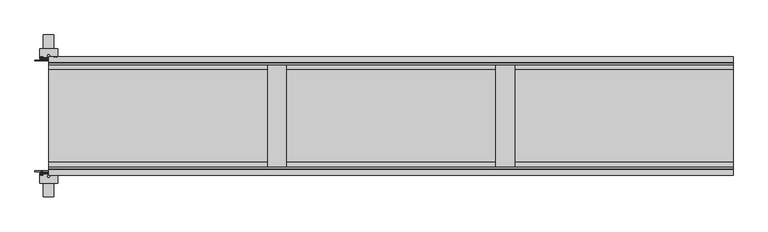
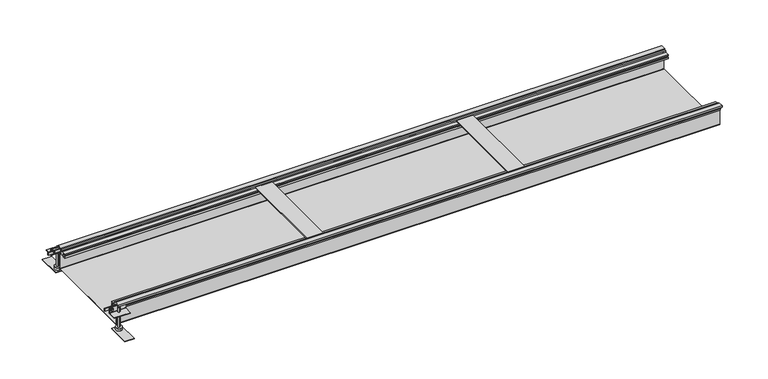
"""IFC4 building model written with IfcOpenShell, lengths in millimetres: proxy geometry, Electrical_Installation_Hager_BKW-Trunking-System-With-Trunking-Bottom-For-Dry-Cleaned-Floors : Nominal Size 400  Length 2.4 m."""

from ifc_helpers import new_model, si_unit, point, frame, frame_2d, origin, place, context, project, spatial, polyline, circle_curve, ellipse_curve, trimmed, segment, composite_curve, outline, extrude, source, transform, mapped, element, save
from ifc_brep_helpers import plane_surface, cylinder_surface, revolved_surface, advanced_brep


def electrical_fixtures_7b31ae11(model_context):
    return source(origin(), model_context, "Body", "SolidModel", [
        advanced_brep(
        [(-19.209696, -206.6418922, 2.5), (-28.790304, -206.6418922, 2.5), (-28.790304, -204.7, 2.5), (-19.209696, -204.7, 2.5), (-26.562969, -204.7, 2.5), (-21.437031, -204.7, 2.5), (-26.562969, -192.7, 2.5), (-21.437031, -192.7, 2.5), (-24.0, -192.7, 2.5), (-24.0, -208.3479209, 2.5)],
        [
            (0, 1, circle_curve(frame((-24.0, -206.6418922, 2.5), z_axis=(0.0, 1.0, 0.0), x_axis=(-1.0, 0.0, 0.0)), 4.790304)),
            (1, 2),
            (2, 3, circle_curve(frame((-24.0, -204.7, 2.5), z_axis=(0.0, -1.0, 0.0), x_axis=(-1.0, 0.0, 0.0)), 4.790304)),
            (3, 0),
            (1, 0, circle_curve(frame((-24.0, -206.6418922, 2.5), z_axis=(0.0, 1.0, 0.0), x_axis=(-1.0, 0.0, 0.0)), 4.790304)),
            (3, 2, circle_curve(frame((-24.0, -204.7, 2.5), z_axis=(0.0, -1.0, 0.0), x_axis=(-1.0, 0.0, 0.0)), 4.790304)),
            (2, 4),
            (4, 5, circle_curve(frame((-24.0, -204.7, 2.5), z_axis=(0.0, -1.0, 0.0), x_axis=(-1.0, 0.0, 0.0)), 2.562969)),
            (5, 3),
            (5, 4, circle_curve(frame((-24.0, -204.7, 2.5), z_axis=(0.0, -1.0, 0.0), x_axis=(-1.0, 0.0, 0.0)), 2.562969)),
            (4, 6),
            (6, 7, circle_curve(frame((-24.0, -192.7, 2.5), z_axis=(0.0, -1.0, 0.0), x_axis=(-1.0, 0.0, 0.0)), 2.562969)),
            (7, 5),
            (7, 6, circle_curve(frame((-24.0, -192.7, 2.5), z_axis=(0.0, -1.0, 0.0), x_axis=(-1.0, 0.0, 0.0)), 2.562969)),
            (6, 8),
            (8, 7),
            (9, 1, circle_curve(frame((-24.0319066, -200.8592246, 2.5), z_axis=(0.0, 0.0, -1.0), x_axis=(-1.0, 0.0, 0.0)), 7.4887643)),
            (0, 9, circle_curve(frame((-23.9680934, -200.8592246, 2.5), z_axis=(0.0, 0.0, -1.0), x_axis=(1.0, 0.0, 0.0)), 7.4887643)),
        ],
        [
            cylinder_surface(frame((-24.0, -204.2950786, 2.5), z_axis=(0.0, -1.0, 0.0), x_axis=(-1.0, 0.0, 0.0)), 4.790304),
            plane_surface(frame((-24.0, -204.7, 2.5), z_axis=(0.0, 1.0, 0.0), x_axis=(-1.0, 0.0, 0.0))),
            cylinder_surface(frame((-24.0, -204.2950786, 2.5), z_axis=(0.0, -1.0, 0.0), x_axis=(-1.0, 0.0, 0.0)), 2.562969),
            plane_surface(frame((-24.0, -192.7, 2.5), z_axis=(0.0, 1.0, 0.0), x_axis=(-1.0, 0.0, 0.0))),
            revolved_surface(trimmed(ellipse_curve(frame((-24.0319066, -200.8592246, 2.5), z_axis=(0.0, 0.0, 1.0), x_axis=(-1.0, 0.0, 0.0)), 7.4887643, 7.4887643), [point((-28.790304, -206.6418922, 2.5))], [point((-24.0, -208.3479209, 2.5))], True, "CARTESIAN"), (-24.0, -204.2950786, 2.5), (0.0, -1.0, 0.0)),
        ],
        [
            (0, [[1, 2, 3, 4]]),
            (0, [[5, -4, 6, -2]]),
            (1, [[-3, 7, 8, 9]]),
            (1, [[-6, -9, 10, -7]]),
            (2, [[-8, 11, 12, 13]]),
            (2, [[-10, -13, 14, -11]]),
            (3, [[-12, 15, 16]]),
            (3, [[-14, -16, -15]]),
            (4, [[17, -1, 18]]),
            (4, [[-18, -5, -17]]),
        ],
    ),
        advanced_brep(
        [(29.0575247, 204.7, 2.5), (19.4769168, 204.7, 2.5), (19.4769168, 206.6418922, 2.5), (29.0575247, 206.6418922, 2.5), (26.8301898, 204.7, 2.5), (21.7042517, 204.7, 2.5), (26.8301898, 192.7, 2.5), (21.7042517, 192.7, 2.5), (24.2672208, 192.7, 2.5), (24.2672208, 208.3479209, 2.5)],
        [
            (0, 1, circle_curve(frame((24.2672208, 204.7, 2.5), z_axis=(0.0, 1.0, 0.0), x_axis=(-1.0, 0.0, 0.0)), 4.790304)),
            (1, 2),
            (2, 3, circle_curve(frame((24.2672208, 206.6418922, 2.5), z_axis=(0.0, -1.0, 0.0), x_axis=(-1.0, 0.0, 0.0)), 4.790304)),
            (3, 0),
            (1, 0, circle_curve(frame((24.2672208, 204.7, 2.5), z_axis=(0.0, 1.0, 0.0), x_axis=(-1.0, 0.0, 0.0)), 4.790304)),
            (3, 2, circle_curve(frame((24.2672208, 206.6418922, 2.5), z_axis=(0.0, -1.0, 0.0), x_axis=(-1.0, 0.0, 0.0)), 4.790304)),
            (4, 5, circle_curve(frame((24.2672208, 204.7, 2.5), z_axis=(0.0, 1.0, 0.0), x_axis=(-1.0, 0.0, 0.0)), 2.562969)),
            (5, 1),
            (0, 4),
            (5, 4, circle_curve(frame((24.2672208, 204.7, 2.5), z_axis=(0.0, 1.0, 0.0), x_axis=(-1.0, 0.0, 0.0)), 2.562969)),
            (6, 7, circle_curve(frame((24.2672208, 192.7, 2.5), z_axis=(0.0, 1.0, 0.0), x_axis=(-1.0, 0.0, 0.0)), 2.562969)),
            (7, 5),
            (4, 6),
            (7, 6, circle_curve(frame((24.2672208, 192.7, 2.5), z_axis=(0.0, 1.0, 0.0), x_axis=(-1.0, 0.0, 0.0)), 2.562969)),
            (8, 7),
            (6, 8),
            (2, 9, circle_curve(frame((24.2353142, 200.8592246, 2.5), z_axis=(0.0, 0.0, -1.0), x_axis=(-1.0, 0.0, 0.0)), 7.4887643)),
            (9, 3, circle_curve(frame((24.2991274, 200.8592246, 2.5), z_axis=(0.0, 0.0, -1.0), x_axis=(1.0, 0.0, 0.0)), 7.4887643)),
        ],
        [
            cylinder_surface(frame((24.2672208, 204.2950786, 2.5), z_axis=(0.0, -1.0, 0.0), x_axis=(-1.0, 0.0, 0.0)), 4.790304),
            plane_surface(frame((24.2672208, 204.7, 2.5), z_axis=(0.0, -1.0, 0.0), x_axis=(-1.0, 0.0, 0.0))),
            cylinder_surface(frame((24.2672208, 204.2950786, 2.5), z_axis=(0.0, -1.0, 0.0), x_axis=(-1.0, 0.0, 0.0)), 2.562969),
            plane_surface(frame((24.2672208, 192.7, 2.5), z_axis=(0.0, -1.0, 0.0), x_axis=(-1.0, 0.0, 0.0))),
            revolved_surface(trimmed(ellipse_curve(frame((24.2353142, 200.8592246, 2.5), z_axis=(0.0, 0.0, 1.0), x_axis=(-1.0, 0.0, 0.0)), 7.4887643, 7.4887643), [point((24.2672208, 208.3479209, 2.5))], [point((19.4769168, 206.6418922, 2.5))], True, "CARTESIAN"), (24.2672208, 204.2950786, 2.5), (0.0, -1.0, 0.0)),
        ],
        [
            (0, [[1, 2, 3, 4]]),
            (0, [[5, -4, 6, -2]]),
            (1, [[7, 8, -1, 9]]),
            (1, [[10, -9, -5, -8]]),
            (2, [[11, 12, -7, 13]]),
            (2, [[14, -13, -10, -12]]),
            (3, [[15, -11, 16]]),
            (3, [[-16, -14, -15]]),
            (4, [[-3, 17, 18]]),
            (4, [[-6, -18, -17]]),
        ],
    ),
        advanced_brep(
        [(-19.209696, 204.7, 2.5), (-28.790304, 204.7, 2.5), (-28.790304, 206.6418922, 2.5), (-19.209696, 206.6418922, 2.5), (-21.437031, 204.7, 2.5), (-26.562969, 204.7, 2.5), (-21.437031, 192.7, 2.5), (-26.562969, 192.7, 2.5), (-24.0, 192.7, 2.5), (-24.0, 208.3479209, 2.5)],
        [
            (0, 1, circle_curve(frame((-24.0, 204.7, 2.5), z_axis=(0.0, 1.0, 0.0), x_axis=(-1.0, 0.0, 0.0)), 4.790304)),
            (1, 2),
            (2, 3, circle_curve(frame((-24.0, 206.6418922, 2.5), z_axis=(0.0, -1.0, 0.0), x_axis=(-1.0, 0.0, 0.0)), 4.790304)),
            (3, 0),
            (1, 0, circle_curve(frame((-24.0, 204.7, 2.5), z_axis=(0.0, 1.0, 0.0), x_axis=(-1.0, 0.0, 0.0)), 4.790304)),
            (3, 2, circle_curve(frame((-24.0, 206.6418922, 2.5), z_axis=(0.0, -1.0, 0.0), x_axis=(-1.0, 0.0, 0.0)), 4.790304)),
            (4, 5, circle_curve(frame((-24.0, 204.7, 2.5), z_axis=(0.0, 1.0, 0.0), x_axis=(-1.0, 0.0, 0.0)), 2.562969)),
            (5, 1),
            (0, 4),
            (5, 4, circle_curve(frame((-24.0, 204.7, 2.5), z_axis=(0.0, 1.0, 0.0), x_axis=(-1.0, 0.0, 0.0)), 2.562969)),
            (6, 7, circle_curve(frame((-24.0, 192.7, 2.5), z_axis=(0.0, 1.0, 0.0), x_axis=(-1.0, 0.0, 0.0)), 2.562969)),
            (7, 5),
            (4, 6),
            (7, 6, circle_curve(frame((-24.0, 192.7, 2.5), z_axis=(0.0, 1.0, 0.0), x_axis=(-1.0, 0.0, 0.0)), 2.562969)),
            (8, 7),
            (6, 8),
            (2, 9, circle_curve(frame((-24.0319066, 200.8592246, 2.5), z_axis=(0.0, 0.0, -1.0), x_axis=(-1.0, 0.0, 0.0)), 7.4887643)),
            (9, 3, circle_curve(frame((-23.9680934, 200.8592246, 2.5), z_axis=(0.0, 0.0, -1.0), x_axis=(1.0, 0.0, 0.0)), 7.4887643)),
        ],
        [
            cylinder_surface(frame((-24.0, 204.2950786, 2.5), z_axis=(0.0, -1.0, 0.0), x_axis=(-1.0, 0.0, 0.0)), 4.790304),
            plane_surface(frame((-24.0, 204.7, 2.5), z_axis=(0.0, -1.0, 0.0), x_axis=(-1.0, 0.0, 0.0))),
            cylinder_surface(frame((-24.0, 204.2950786, 2.5), z_axis=(0.0, -1.0, 0.0), x_axis=(-1.0, 0.0, 0.0)), 2.562969),
            plane_surface(frame((-24.0, 192.7, 2.5), z_axis=(0.0, -1.0, 0.0), x_axis=(-1.0, 0.0, 0.0))),
            revolved_surface(trimmed(ellipse_curve(frame((-24.0319066, 200.8592246, 2.5), z_axis=(0.0, 0.0, 1.0), x_axis=(-1.0, 0.0, 0.0)), 7.4887643, 7.4887643), [point((-24.0, 208.3479209, 2.5))], [point((-28.790304, 206.6418922, 2.5))], True, "CARTESIAN"), (-24.0, 204.2950786, 2.5), (0.0, -1.0, 0.0)),
        ],
        [
            (0, [[1, 2, 3, 4]]),
            (0, [[5, -4, 6, -2]]),
            (1, [[7, 8, -1, 9]]),
            (1, [[10, -9, -5, -8]]),
            (2, [[11, 12, -7, 13]]),
            (2, [[14, -13, -10, -12]]),
            (3, [[15, -11, 16]]),
            (3, [[-16, -14, -15]]),
            (4, [[-3, 17, 18]]),
            (4, [[-6, -18, -17]]),
        ],
    ),
        extrude(outline(polyline([(-48.0, 192.7), (-48.0, 195.7), (48.0, 195.7), (48.0, 192.7), (-48.0, 192.7)])), frame((0.0, 0.0, -2.5), z_axis=(0.0, 0.0, 1.0), x_axis=(1.0, 0.0, 0.0)), (0.0, 0.0, 1.0), 10.0),
        extrude(outline(polyline([(-48.0, -195.7), (-48.0, -192.7), (48.0, -192.7), (48.0, -195.7), (-48.0, -195.7)])), frame((0.0, 0.0, -2.5), z_axis=(0.0, 0.0, 1.0), x_axis=(1.0, 0.0, 0.0)), (0.0, 0.0, 1.0), 10.0),
        extrude(outline(composite_curve([segment(polyline([(200.6, 10.9), (202.6, 10.9), (202.6, -11.1088822)]), True, "CONTINUOUS"), segment(trimmed(circle_curve(frame_2d((203.5911178, -11.1088822)), 0.9911178), [point((202.6, -11.1088822))], [point((203.5911178, -12.1))], True, "CARTESIAN"), True, "CONTINUOUS"), segment(polyline([(203.5911178, -12.1), (235.6, -12.1), (235.6, -14.1), (203.6002521, -14.1)]), True, "CONTINUOUS"), segment(trimmed(circle_curve(frame_2d((203.6002521, -11.0997479)), 3.0002521), [point((203.6002521, -14.1))], [point((200.6, -11.0997479))], False, "CARTESIAN"), True, "CONTINUOUS"), segment(polyline([(200.6, -11.0997479), (200.6, 10.9)]), True, "CONTINUOUS")], self_intersect=False)), frame((-31.7, 0.0, 0.0), z_axis=(1.0, 0.0, 0.0), x_axis=(0.0, 1.0, 0.0)), (0.0, 0.0, 1.0), 63.4),
        extrude(outline(composite_curve([segment(polyline([(-200.6, 10.9), (-200.6, -11.0997479)]), True, "CONTINUOUS"), segment(trimmed(circle_curve(frame_2d((-203.6002521, -11.0997479)), 3.0002521), [point((-200.6, -11.0997479))], [point((-203.6002521, -14.1))], False, "CARTESIAN"), True, "CONTINUOUS"), segment(polyline([(-203.6002521, -14.1), (-235.6, -14.1), (-235.6, -12.1), (-203.5911178, -12.1)]), True, "CONTINUOUS"), segment(trimmed(circle_curve(frame_2d((-203.5911178, -11.1088822)), 0.9911178), [point((-203.5911178, -12.1))], [point((-202.6, -11.1088822))], True, "CARTESIAN"), True, "CONTINUOUS"), segment(polyline([(-202.6, -11.1088822), (-202.6, 10.9), (-200.6, 10.9)]), True, "CONTINUOUS")], self_intersect=False)), frame((-31.7, 0.0, 0.0), z_axis=(1.0, 0.0, 0.0), x_axis=(0.0, 1.0, 0.0)), (0.0, 0.0, 1.0), 63.4),
        extrude(outline(composite_curve([segment(trimmed(circle_curve(frame_2d((0.0, 211.1712378)), 3.9923162), [point((0.0, 215.163554))], [point((0.0, 207.1789216))], False, "CARTESIAN"), True, "CONTINUOUS"), segment(trimmed(circle_curve(frame_2d((0.0, 211.1712378)), 3.9923162), [point((0.0, 207.1789216))], [point((0.0, 215.163554))], False, "CARTESIAN"), True, "CONTINUOUS")], self_intersect=False)), frame((0.0, 0.0, -74.8), z_axis=(0.0, 0.0, 1.0), x_axis=(1.0, 0.0, 0.0)), (0.0, 0.0, 1.0), 81.8),
        extrude(outline(composite_curve([segment(trimmed(circle_curve(frame_2d((0.0, -211.0787011)), 3.991847), [point((0.0, -207.0868541))], [point((0.0, -215.0705482))], False, "CARTESIAN"), True, "CONTINUOUS"), segment(trimmed(circle_curve(frame_2d((0.0, -211.0787011)), 3.991847), [point((0.0, -215.0705482))], [point((0.0, -207.0868541))], False, "CARTESIAN"), True, "CONTINUOUS")], self_intersect=False)), frame((0.0, 0.0, -74.8), z_axis=(0.0, 0.0, 1.0), x_axis=(1.0, 0.0, 0.0)), (0.0, 0.0, 1.0), 81.8),
        extrude(outline(composite_curve([segment(trimmed(circle_curve(frame_2d((0.0, 211.1652527)), 12.0), [point((0.0, 223.1652527))], [point((0.0, 199.1652527))], False, "CARTESIAN"), True, "CONTINUOUS"), segment(trimmed(circle_curve(frame_2d((0.0, 211.1652527)), 12.0), [point((0.0, 199.1652527))], [point((0.0, 223.1652527))], False, "CARTESIAN"), True, "CONTINUOUS")], self_intersect=False)), frame((0.0, 0.0, -85.5), z_axis=(0.0, 0.0, 1.0), x_axis=(1.0, 0.0, 0.0)), (0.0, 0.0, 1.0), 10.7),
        extrude(outline(composite_curve([segment(trimmed(circle_curve(frame_2d((0.0, -211.112037)), 12.0), [point((0.0, -199.112037))], [point((0.0, -223.112037))], False, "CARTESIAN"), True, "CONTINUOUS"), segment(trimmed(circle_curve(frame_2d((0.0, -211.112037)), 12.0), [point((0.0, -223.112037))], [point((0.0, -199.112037))], False, "CARTESIAN"), True, "CONTINUOUS")], self_intersect=False)), frame((0.0, 0.0, -85.5), z_axis=(0.0, 0.0, 1.0), x_axis=(1.0, 0.0, 0.0)), (0.0, 0.0, 1.0), 10.7),
        extrude(outline(polyline([(18.0, 194.1), (-18.0, 194.1), (-18.0, 284.1), (18.0, 284.1), (18.0, 194.1)])), frame((0.0, 0.0, -87.0), z_axis=(0.0, 0.0, 1.0), x_axis=(1.0, 0.0, 0.0)), (0.0, 0.0, 1.0), 1.5),
        extrude(outline(polyline([(18.0, -284.1), (-18.0, -284.1), (-18.0, -194.1), (18.0, -194.1), (18.0, -284.1)])), frame((0.0, 0.0, -87.0), z_axis=(0.0, 0.0, 1.0), x_axis=(1.0, 0.0, 0.0)), (0.0, 0.0, 1.0), 1.5),
        extrude(outline(polyline([(1633.5851476, 179.8), (1633.5851476, -179.8), (1568.585332, -179.8), (1568.585332, 179.8), (1633.5851476, 179.8)])), frame((0.0, 0.0, 2.5), z_axis=(0.0, 0.0, 1.0), x_axis=(1.0, 0.0, 0.0)), (0.0, 0.0, 1.0), 4.2),
        extrude(outline(polyline([(833.5851476, 179.8), (833.5851476, -179.8), (768.585332, -179.8), (768.585332, 179.8), (833.5851476, 179.8)])), frame((0.0, 0.0, 2.5), z_axis=(0.0, 0.0, 1.0), x_axis=(1.0, 0.0, 0.0)), (0.0, 0.0, 1.0), 4.2),
        extrude(outline(polyline([(208.0, 6.7), (190.0, 6.7), (190.0, -2.5), (200.475, -2.5), (200.475, -4.0), (194.6, -4.0), (194.6, -14.0), (193.1, -14.0), (193.1, -4.0), (185.1, -4.0), (185.1, -10.1), (173.3, -10.1), (173.3, -14.0), (163.1, -14.0), (163.1, -6.6607064), (166.0, -6.6607064), (166.0, -12.5), (170.7, -12.5), (170.7, 0.5), (166.0, 0.5), (166.0, -2.1), (162.9910979, -2.1), (162.9910979, 2.5), (179.8, 2.5), (179.8, 10.0), (185.0, 10.0), (185.0, -0.5), (188.0, -0.5), (188.0, 13.0), (208.0, 13.0), (208.0, 6.7)])), frame((0.0, 0.0, 0.0), z_axis=(1.0, 0.0, 0.0), x_axis=(0.0, 1.0, 0.0)), (0.0, 0.0, 1.0), 2400.0),
        extrude(outline(polyline([(-208.0, 6.7), (-208.0, 13.0), (-188.0, 13.0), (-188.0, -0.5), (-185.0, -0.5), (-185.0, 10.0), (-179.8, 10.0), (-179.8, 2.5), (-162.9910979, 2.5), (-162.9910979, -2.1), (-166.0, -2.1), (-166.0, 0.5), (-170.7, 0.5), (-170.7, -12.5), (-166.0, -12.5), (-166.0, -6.6607064), (-163.1, -6.6607064), (-163.1, -14.0), (-173.3, -14.0), (-173.3, -10.1), (-185.1, -10.1), (-185.1, -4.0), (-193.1, -4.0), (-193.1, -14.0), (-194.6, -14.0), (-194.6, -4.0), (-200.475, -4.0), (-200.475, -2.5), (-190.0, -2.5), (-190.0, 6.7), (-208.0, 6.7)])), frame((0.0, 0.0, 0.0), z_axis=(1.0, 0.0, 0.0), x_axis=(0.0, 1.0, 0.0)), (0.0, 0.0, 1.0), 2400.0),
        extrude(outline(composite_curve([segment(polyline([(191.0, -5.0), (186.0, -5.0), (186.0, -4.0), (191.0, -4.0)]), True, "CONTINUOUS"), segment(trimmed(circle_curve(frame_2d((191.0, -6.0)), 2.0), [point((191.0, -4.0))], [point((193.0, -6.0))], False, "CARTESIAN"), True, "CONTINUOUS"), segment(polyline([(193.0, -6.0), (193.0, -74.0)]), True, "CONTINUOUS"), segment(trimmed(circle_curve(frame_2d((191.0, -74.0)), 2.0), [point((193.0, -74.0))], [point((191.0, -76.0))], False, "CARTESIAN"), True, "CONTINUOUS"), segment(polyline([(191.0, -76.0), (-190.9892454, -76.0)]), True, "CONTINUOUS"), segment(trimmed(circle_curve(frame_2d((-190.9892454, -73.9892454)), 2.0107546), [point((-190.9892454, -76.0))], [point((-193.0, -73.9892454))], False, "CARTESIAN"), True, "CONTINUOUS"), segment(polyline([(-193.0, -73.9892454), (-193.0, -5.9843923)]), True, "CONTINUOUS"), segment(trimmed(circle_curve(frame_2d((-191.0156077, -5.9843923)), 1.9843923), [point((-193.0, -5.9843923))], [point((-191.0156077, -4.0))], False, "CARTESIAN"), True, "CONTINUOUS"), segment(polyline([(-191.0156077, -4.0), (-186.0, -4.0), (-186.0, -5.0), (-190.9930712, -5.0)]), True, "CONTINUOUS"), segment(trimmed(circle_curve(frame_2d((-190.9930712, -6.0069288)), 1.0069288), [point((-190.9930712, -5.0))], [point((-192.0, -6.0069288))], True, "CARTESIAN"), True, "CONTINUOUS"), segment(polyline([(-192.0, -6.0069288), (-192.0, -73.9588562)]), True, "CONTINUOUS"), segment(trimmed(circle_curve(frame_2d((-190.9588562, -73.9588562)), 1.0411438), [point((-192.0, -73.9588562))], [point((-190.9588562, -75.0))], True, "CARTESIAN"), True, "CONTINUOUS"), segment(polyline([(-190.9588562, -75.0), (191.0, -75.0)]), True, "CONTINUOUS"), segment(trimmed(circle_curve(frame_2d((191.0, -74.0)), 1.0), [point((191.0, -75.0))], [point((192.0, -74.0))], True, "CARTESIAN"), True, "CONTINUOUS"), segment(polyline([(192.0, -74.0), (192.0, -6.0)]), True, "CONTINUOUS"), segment(trimmed(circle_curve(frame_2d((191.0, -6.0)), 1.0), [point((192.0, -6.0))], [point((191.0, -5.0))], True, "CARTESIAN"), True, "CONTINUOUS")], self_intersect=False)), frame((0.0, 0.0, 0.0), z_axis=(1.0, 0.0, 0.0), x_axis=(0.0, 1.0, 0.0)), (0.0, 0.0, 1.0), 2400.0),
    ])


if __name__ == "__main__":
    model = new_model("IFC4")
    model_context = context("Model", 3, world=origin())
    ifc_project = project(units=[si_unit("LENGTHUNIT", "METRE", prefix="MILLI")], contexts=[model_context])
    site = spatial("IfcSite", under=ifc_project)
    building = spatial("IfcBuilding", under=site)
    placement = place(None, origin())
    electrical_fixtures_shape = electrical_fixtures_7b31ae11(model_context)
    element("IfcBuildingElementProxy", 1, Name="Electrical_Installation_Hager_BKW-Trunking-System-With-Trunking-Bottom-For-Dry-Cleaned-Floors : Nominal Size 400  Length 2.4 m", ObjectType="Electrical_Installation_Hager_BKW-Trunking-System-With-Trunking-Bottom-For-Dry-Cleaned-Floors : Nominal Size 400  Length 2.4 m", at=placement, inside=building, context=model_context, shape_type="MappedRepresentation", body=[
        mapped(electrical_fixtures_shape, transform((0.0, 0.0, 0.0), x_axis=(1.0, 0.0, 0.0), y_axis=(0.0, 1.0, 0.0), z_axis=(0.0, 0.0, 1.0))),
    ])
    save(model, "model.ifc")
